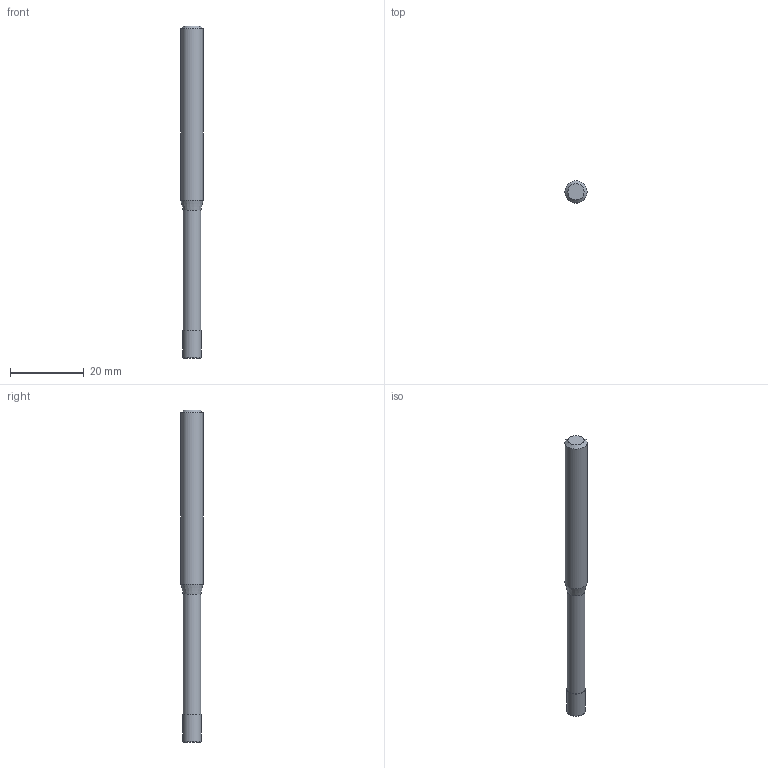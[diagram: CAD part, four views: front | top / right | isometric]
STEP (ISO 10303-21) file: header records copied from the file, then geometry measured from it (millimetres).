
FILE_DESCRIPTION((''),'2;1');
FILE_NAME('C:\Users\nsx150\AppData\Local\Temp\Mastercam 2021\17T8Q8S9EB\TEMP.step','2021-04-21T14:40:22',(''),(''),'STEP Write','Mastercam 2021 ... CNC Software, Inc.','');
FILE_SCHEMA(('AUTOMOTIVE_DESIGN'));
Length unit declared in the file: millimetre
Products named in the file (1): None
Bounding box: 6 x 6 x 90 mm (x, y, z)
Volume: 2128.6 mm3; surface area: 1620.7 mm2
Topology: 2 solids, 2 shells, 10 faces, 14 edges, 8 vertices
Faces by surface type: plane 4, cylinder 3, cone 2, torus 1
Full cylindrical faces by diameter (mm): 4.8 x1, 5 x1, 6 x1
Entity records: 232 total; most frequent: DIRECTION 40, CARTESIAN_POINT 28, AXIS2_PLACEMENT_3D 20, ORIENTED_EDGE 16, EDGE_LOOP 16, STYLED_ITEM 13, ADVANCED_FACE 10, FACE_BOUND 10
